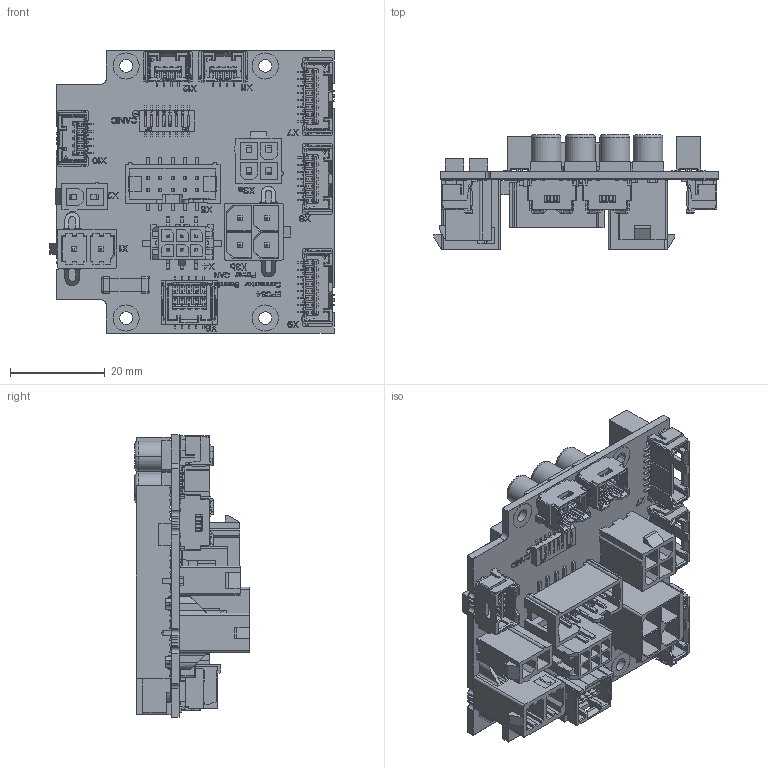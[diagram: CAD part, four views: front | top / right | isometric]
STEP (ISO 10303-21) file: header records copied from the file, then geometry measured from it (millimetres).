
FILE_DESCRIPTION((''),'2;1');
FILE_NAME('EPOS4_POWERCB_ASM','2018-06-08T',('mmagrari'),(''),'CREO PARAMETRIC BY PTC INC, 2017020','CREO PARAMETRIC BY PTC INC, 2017020','');
FILE_SCHEMA(('CONFIG_CONTROL_DESIGN'));
Products named in the file (26): EPOS4_POWERCB_PCB; EPOS4_POWERCB_PCB_SITO; EPOS4_POWERCB_PCB_SIBO; SSM_116_L_DV_LC_BODY; C_137_0116; SSM_116_L_DV_LC_ASM; SSM_123_L_DV_LC_BODY; C_137_0123; SSM_123_L_DV_LC_ASM; 1720650002; 1720650004; 039281023; 039281043; 5025840570; 5025840470; 5025840870; 5025840770; 5031541090; 3M_N2510-6V0C-RB; 430450618; DIP_SWITCH_2P_8; CHOKE_13-6MM; ELKO_F80; DO-214AA; FUSE; EPOS4_POWERCB_ASM
Assembly tree (33 placements, depth 3):
  EPOS4_POWERCB_ASM
    EPOS4_POWERCB_PCB
    EPOS4_POWERCB_PCB_SITO
    EPOS4_POWERCB_PCB_SIBO
    SSM_116_L_DV_LC_ASM
      SSM_116_L_DV_LC_BODY
      C_137_0116
    SSM_123_L_DV_LC_ASM
      SSM_123_L_DV_LC_BODY
      C_137_0123
    1720650002
    1720650004
    039281023
    039281043
    5025840570
    5025840470  x2
    5025840870  x2
    5025840770
    5031541090
    3M_N2510-6V0C-RB
    430450618
    DIP_SWITCH_2P_8
    CHOKE_13-6MM  x3
    ELKO_F80  x4
    DO-214AA  x2
    FUSE
Bounding box: 59.85 x 24.15 x 59.5 mm (x, y, z)
Volume: 18563.3 mm3; surface area: 43657.5 mm2
Topology: 55 solids, 57 shells, 12272 faces, 35976 edges, 23640 vertices
Faces by surface type: plane 11179, cylinder 1055, cone 18, torus 8, sphere 8, extrusion 4
Entity records: 444979 total; most frequent: CARTESIAN_POINT 64203, ORIENTED_EDGE 62320, DIRECTION 53962, PRESENTATION_STYLE_ASSIGNMENT 31416, STYLED_ITEM 31416, CURVE_STYLE 31163, EDGE_CURVE 31163, VECTOR 29074
